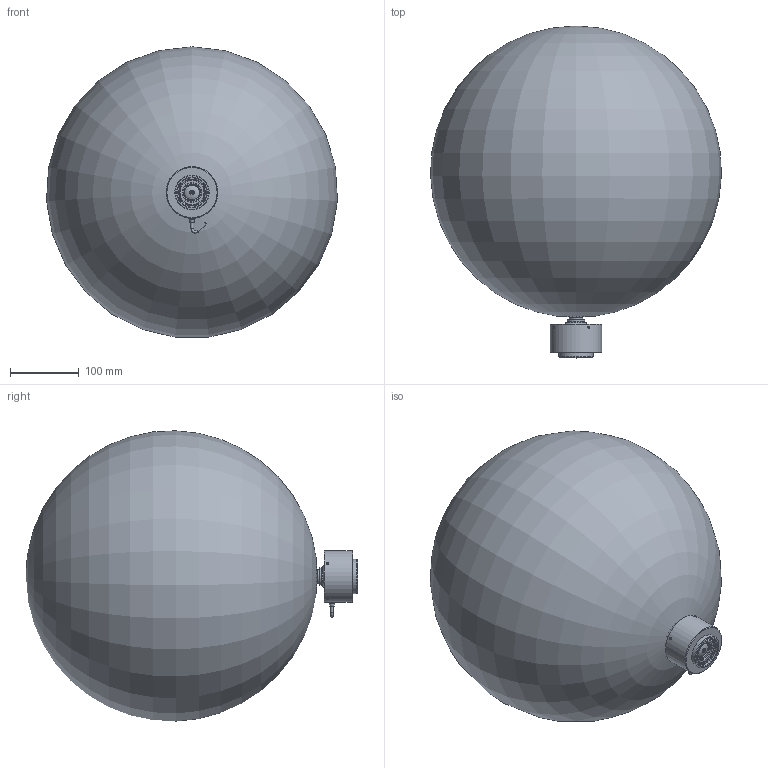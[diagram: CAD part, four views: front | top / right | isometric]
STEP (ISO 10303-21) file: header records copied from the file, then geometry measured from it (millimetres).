
FILE_DESCRIPTION(/* description */ ('Unknown'),/* implementation_level */ '2;1');
FILE_NAME(/* name */ 'VL1624U-MPZ_210607',/* time_stamp */ '2021-06-07T14:58:53+09:00',/* author */ ('Unknown'),/* organization */ ('Unknown'),/* preprocessor_version */ 'ST-DEVELOPER v16.7',/* originating_system */ 'DEX',/* authorisation */ $);
FILE_SCHEMA (('AUTOMOTIVE_DESIGN {1 0 10303 214 3 1 1}'));
Length unit declared in the file: millimetre
Products named in the file (1): VL1624U-MPZ
Bounding box: 422.31 x 482.02 x 421.6 mm (x, y, z)
Volume: 39819413.2 mm3; surface area: 593061.8 mm2
Topology: 3 solids, 13 shells, 430 faces, 1080 edges, 716 vertices
Faces by surface type: plane 287, cylinder 79, cone 51, torus 13
Full cylindrical faces by diameter (mm): 1.7 x3, 1.8 x3, 2 x9, 2.2 x9, 3 x14, 3.5 x4, 3.6 x1, 4 x4, 7.699 x1, 16.5 x1, 21.7 x1, 24.4 x1, 25.4 x1, 42.5 x1, 43 x1, 44 x1, 45 x1, 50 x1, 75 x1
Entity records: 15027 total; most frequent: CARTESIAN_POINT 2327, DIRECTION 1947, ORIENTED_EDGE 1828, EDGE_CURVE 914, VERTEX_POINT 664, AXIS2_PLACEMENT_3D 658, LINE 631, VECTOR 631
